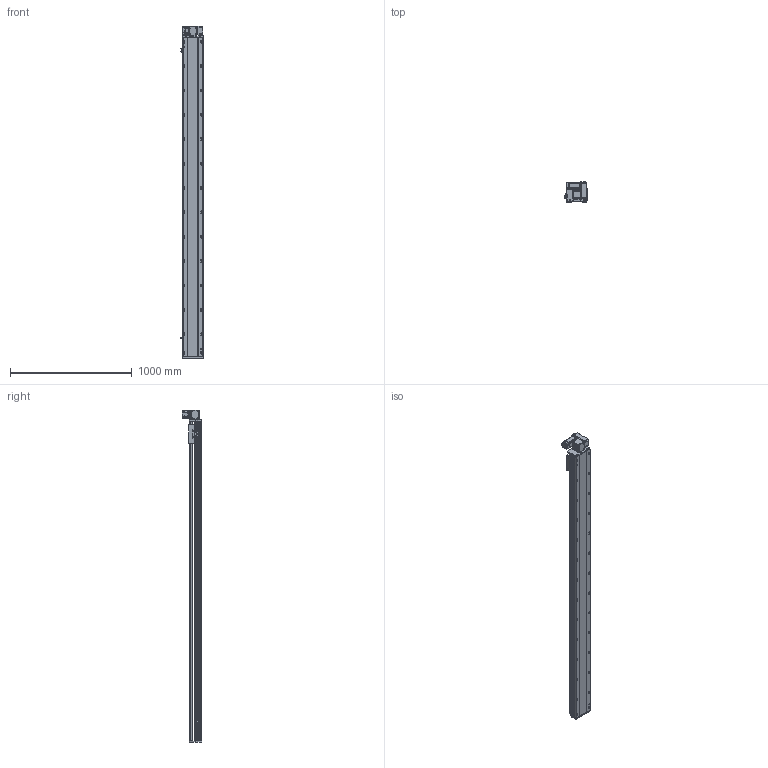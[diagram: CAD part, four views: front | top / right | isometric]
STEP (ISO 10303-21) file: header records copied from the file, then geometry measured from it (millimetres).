
FILE_DESCRIPTION (( 'STEP AP214' ), '1' );
FILE_NAME ('RTB17S-XX-2350-RW-M40-C4.STEP', '2025-12-11T09:12:12', ( '' ), ( '' ), 'SwSTEP 2.0', 'SolidWorks 2018', '' );
FILE_SCHEMA (( 'AUTOMOTIVE_DESIGN' ));
Length unit declared in the file: millimetre
Products named in the file (14): RTB17S-XX-2350-RW-M40-C4; RTB17S-L-001耜醱啣^RTB17S-XX-XX-RW-M40-C4; OMRON EE-SX672 传感器^RTB17S-XX-XX-RW-M40-C4; RTB14-L-017P^RTB17S-RW-々湍釱蚾饜-400W_RTB17S-XX-XX-RW-M40-C4; RTB14-L-008-M20--萇儂啣^RTB17S-RW-々湍釱蚾饜-400W_RTB17S-XX-XX-RW-M40-C4; RMP17S-L-014-T20--々湍釱^RTB17S-RW-々湍釱蚾饜-400W_RTB17S-XX-XX-RW-M40-C4; RTB17S-L-004佪裝蹟譫蟀諉釱^RTB17S-XX-XX-RW-M40-C4; 400W侜督萇儂^RTB17S-XX-XX-RW-M40-C4; RTB14-L-018P^RTB17S-RW-々湍釱蚾饜-400W_RTB17S-XX-XX-RW-M40-C4; RTB14-L-005P--轴承塑胶压盖^RTB17S-RW-皮带座装配-400W_RTB17S-XX-XX-RW-M40-C4; RTH13-BL-012覜茼え俋离^RTB17S-XX-XX-RW-M40-C4; RTB17S-L-007奻裔^RTB17S-XX-XX-RW-M40-C4; RTB17-R-011菁釱^RTB17S-XX-XX-RW-M40-C4; RTB17S-RW-々湍釱蚾饜-400W^RTB17S-XX-XX-RW-M40-C4
Assembly tree (16 placements, depth 3):
  RTB17S-XX-2350-RW-M40-C4
    RTB17-R-011菁釱^RTB17S-XX-XX-RW-M40-C4
    RTB17S-L-007奻裔^RTB17S-XX-XX-RW-M40-C4
    OMRON EE-SX672 传感器^RTB17S-XX-XX-RW-M40-C4  x3
    RTB17S-L-001耜醱啣^RTB17S-XX-XX-RW-M40-C4
    400W侜督萇儂^RTB17S-XX-XX-RW-M40-C4
    RTB17S-L-004佪裝蹟譫蟀諉釱^RTB17S-XX-XX-RW-M40-C4
    RTH13-BL-012覜茼え俋离^RTB17S-XX-XX-RW-M40-C4
    RTB17S-RW-々湍釱蚾饜-400W^RTB17S-XX-XX-RW-M40-C4
      RMP17S-L-014-T20--々湍釱^RTB17S-RW-々湍釱蚾饜-400W_RTB17S-XX-XX-RW-M40-C4
      RTB14-L-005P--轴承塑胶压盖^RTB17S-RW-皮带座装配-400W_RTB17S-XX-XX-RW-M40-C4
      RTB14-L-008-M20--萇儂啣^RTB17S-RW-々湍釱蚾饜-400W_RTB17S-XX-XX-RW-M40-C4
      RTB14-L-017P^RTB17S-RW-々湍釱蚾饜-400W_RTB17S-XX-XX-RW-M40-C4  x2
      RTB14-L-018P^RTB17S-RW-々湍釱蚾饜-400W_RTB17S-XX-XX-RW-M40-C4
Bounding box: 183.5 x 160.5 x 2722.5 mm (x, y, z)
Volume: 23383487.2 mm3; surface area: 2698608.2 mm2
Topology: 15 solids, 15 shells, 2317 faces, 6465 edges, 4221 vertices
Faces by surface type: plane 1082, cylinder 787, bspline 301, cone 139, torus 8
Entity records: 68009 total; most frequent: CARTESIAN_POINT 19270, ORIENTED_EDGE 9774, DIRECTION 9026, EDGE_CURVE 4887, VERTEX_POINT 3209, AXIS2_PLACEMENT_3D 3139, LINE 2748, VECTOR 2748
